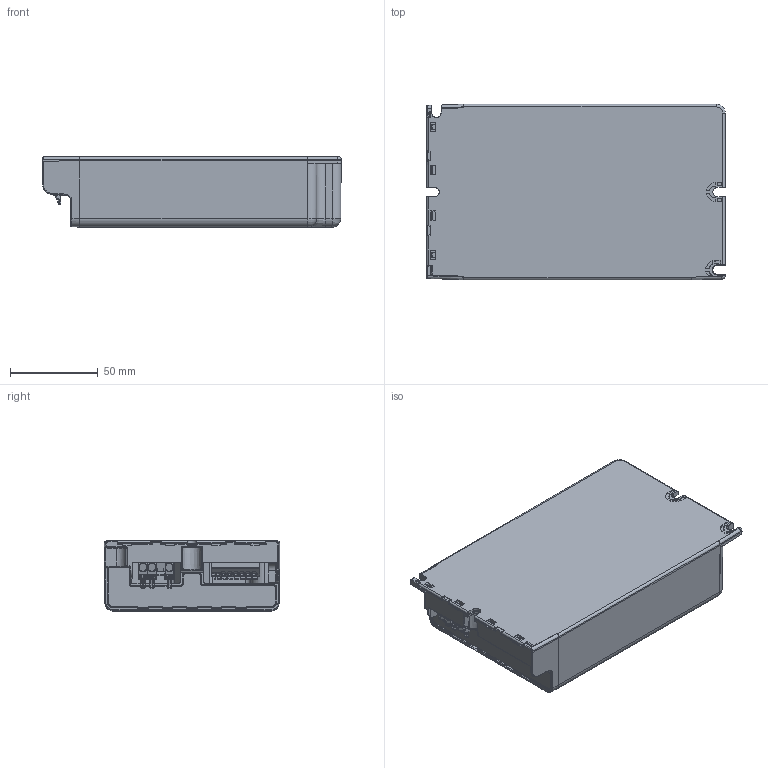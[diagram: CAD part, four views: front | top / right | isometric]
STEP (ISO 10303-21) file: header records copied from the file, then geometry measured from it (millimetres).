
FILE_DESCRIPTION((''),'2;1');
FILE_NAME('15013657Z_DATAMEC_OTD_170X100X4','2019-11-18T15:50:23',('elon.guo'),(''),'CREO PARAMETRIC BY PTC INC, 2019164','CREO PARAMETRIC BY PTC INC, 2019164','');
FILE_SCHEMA(('CONFIG_CONTROL_DESIGN'));
Products named in the file (1): 15013657Z_DATAMEC_OTD_170X100X4
Bounding box: 170 x 100 x 40 mm (x, y, z)
Volume: 124467.2 mm3; surface area: 139772.2 mm2
Topology: 2 solids, 4 shells, 2553 faces, 7345 edges, 4757 vertices
Faces by surface type: plane 1439, cylinder 788, bspline 177, cone 57, torus 51, sphere 27, extrusion 14
Entity records: 94731 total; most frequent: CARTESIAN_POINT 30388, ORIENTED_EDGE 14586, DIRECTION 11806, EDGE_CURVE 7295, VERTEX_POINT 4757, VECTOR 4742, LINE 4728, AXIS2_PLACEMENT_3D 3532
